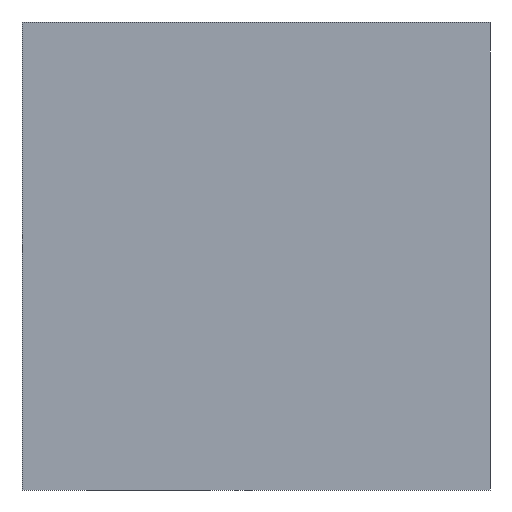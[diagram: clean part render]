
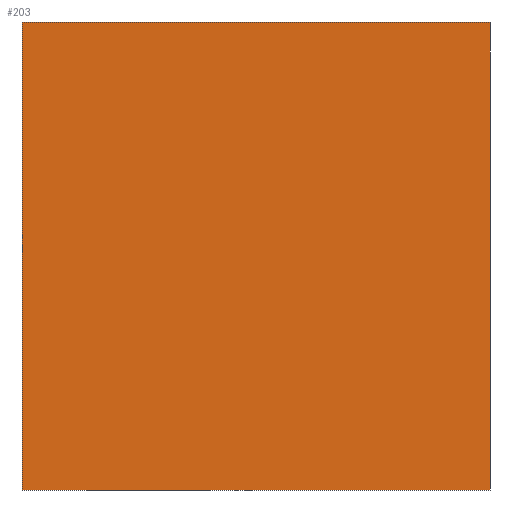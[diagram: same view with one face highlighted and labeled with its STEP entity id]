
A CAD part, front view. The second image highlights one B-rep face of the part: STEP entity #203.
In plain terms, the highlighted planar face has unit normal (0, -1, 0).
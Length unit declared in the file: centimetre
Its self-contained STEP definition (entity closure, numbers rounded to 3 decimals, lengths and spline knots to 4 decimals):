
#3 = DIRECTION ( 'NONE',  ( 0., 0., -1. ) ) ;
#46 = LINE ( 'NONE', #294, #243 ) ;
#48 = ORIENTED_EDGE ( 'NONE', *, *, #362, .F. ) ;
#55 = CARTESIAN_POINT ( 'NONE',  ( 0., 0., 1000. ) ) ;
#80 = CARTESIAN_POINT ( 'NONE',  ( 1000., 0., 1000. ) ) ;
#96 = DIRECTION ( 'NONE',  ( 0., 0., -1. ) ) ;
#97 = VECTOR ( 'NONE', #96, 100. ) ;
#98 = LINE ( 'NONE', #346, #510 ) ;
#100 = VERTEX_POINT ( 'NONE', #351 ) ;
#144 = ORIENTED_EDGE ( 'NONE', *, *, #458, .F. ) ;
#169 = DIRECTION ( 'NONE',  ( 0., 1., 0. ) ) ;
#194 = EDGE_LOOP ( 'NONE', ( #367, #144, #48, #239 ) ) ;
#199 = CARTESIAN_POINT ( 'NONE',  ( 1000., 0., 1000. ) ) ;
#203 = ADVANCED_FACE ( 'NONE', ( #612 ), #208, .F. ) ;
#208 = PLANE ( 'NONE',  #552 ) ;
#239 = ORIENTED_EDGE ( 'NONE', *, *, #506, .T. ) ;
#243 = VECTOR ( 'NONE', #442, 100. ) ;
#277 = VERTEX_POINT ( 'NONE', #371 ) ;
#294 = CARTESIAN_POINT ( 'NONE',  ( 0., 0., 0. ) ) ;
#346 = CARTESIAN_POINT ( 'NONE',  ( 0., 0., 1000. ) ) ;
#350 = CARTESIAN_POINT ( 'NONE',  ( 1000., 0., 0. ) ) ;
#351 = CARTESIAN_POINT ( 'NONE',  ( 0., 0., 0. ) ) ;
#362 = EDGE_CURVE ( 'NONE', #277, #637, #98, .T. ) ;
#367 = ORIENTED_EDGE ( 'NONE', *, *, #386, .T. ) ;
#371 = CARTESIAN_POINT ( 'NONE',  ( 0., 0., 1000. ) ) ;
#386 = EDGE_CURVE ( 'NONE', #100, #514, #46, .T. ) ;
#393 = VECTOR ( 'NONE', #3, 100. ) ;
#442 = DIRECTION ( 'NONE',  ( 1., 0., 0. ) ) ;
#458 = EDGE_CURVE ( 'NONE', #637, #514, #587, .T. ) ;
#493 = LINE ( 'NONE', #55, #393 ) ;
#505 = DIRECTION ( 'NONE',  ( 0., 0., 1. ) ) ;
#506 = EDGE_CURVE ( 'NONE', #277, #100, #493, .T. ) ;
#507 = CARTESIAN_POINT ( 'NONE',  ( 0., 0., 1000. ) ) ;
#510 = VECTOR ( 'NONE', #539, 100. ) ;
#514 = VERTEX_POINT ( 'NONE', #350 ) ;
#539 = DIRECTION ( 'NONE',  ( 1., 0., 0. ) ) ;
#552 = AXIS2_PLACEMENT_3D ( 'NONE', #507, #169, #505 ) ;
#587 = LINE ( 'NONE', #199, #97 ) ;
#612 = FACE_OUTER_BOUND ( 'NONE', #194, .T. ) ;
#637 = VERTEX_POINT ( 'NONE', #80 ) ;
